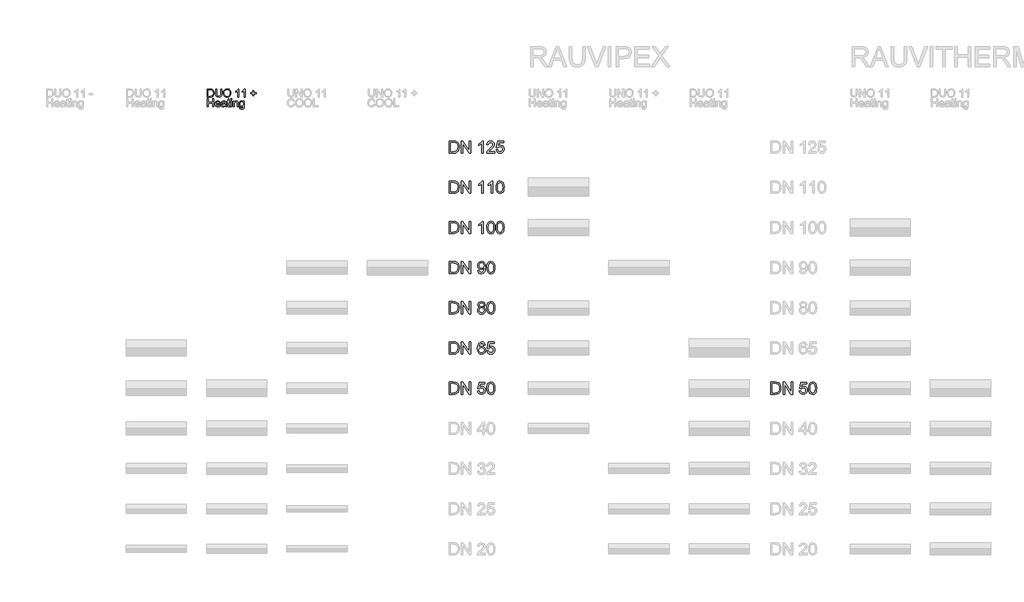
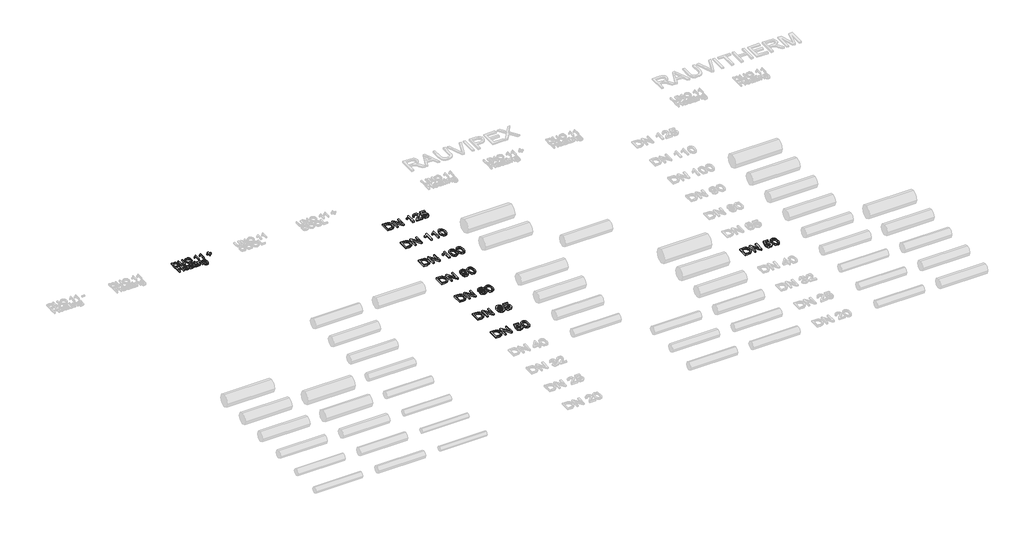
# One storey, part 36 of 44: 9 proxies.
"""IFC4 building model written with IfcOpenShell, lengths in millimetres."""

from ifc_helpers import new_model, si_unit, origin, origin_with_axes, place, context, project, spatial, polyline, outline, extrude, element, save

model = new_model("IFC4")

# Units and contexts
model_context = context("Model", 3, world=origin())
ifc_project = project(units=[si_unit("LENGTHUNIT", "METRE", prefix="MILLI")], contexts=[model_context])

# Site, building, storey
site = spatial("IfcSite", under=ifc_project)
building = spatial("IfcBuilding", under=site)
storey = spatial("IfcBuildingStorey", under=building, Name="REHAU Starting view", Elevation=0.0)

# Proxies
placement = place(None, origin())
element("IfcBuildingElementProxy", 1, Name="100", ObjectType="100", at=placement, inside=storey, context=model_context, shape_type="SweptSolid", body=[
    extrude(outline(polyline([(23010.9874089, 20121.9748178), (23010.9874089, 20222.431128), (23045.6418929, 20222.431128), (23063.5700088, 20220.9841255), (23078.3343395, 20213.7981638), (23090.2291907, 20196.6303374), (23094.1777908, 20172.7425332), (23091.5045149, 20152.4722352), (23084.6373844, 20137.8427946), (23075.4648599, 20128.7315838), (23063.4596442, 20123.6916005), (23047.3096246, 20121.9748178), (23010.9874089, 20121.9748178)]), holes=[polyline([(23023.5444477, 20134.5318566), (23045.7645202, 20134.5318566), (23061.9268025, 20136.3467411), (23071.2464797, 20141.4725636), (23078.8861625, 20153.9437632), (23081.620752, 20172.9387369), (23080.2810484, 20186.6239471), (23076.2619376, 20196.7284393), (23063.2266522, 20207.863001), (23045.4211637, 20209.8740892), (23023.5444477, 20209.8740892), (23023.5444477, 20134.5318566)])]), origin_with_axes(), (0.0, 0.0, 1.0), 20.0),
    extrude(outline(polyline([(23177.3681726, 20222.431128), (23189.9252114, 20222.431128), (23189.9252114, 20164.477451), (23186.5161716, 20140.4547567), (23174.2289129, 20125.9847316), (23163.9650053, 20121.8000739), (23150.9297199, 20120.405188), (23127.9861461, 20125.2612303), (23120.3464634, 20131.2055902), (23115.2574291, 20139.3265853), (23111.4437191, 20164.477451), (23111.4437191, 20222.431128), (23124.0007578, 20222.431128), (23124.0007578, 20164.9189094), (23126.4778299, 20145.7767829), (23134.9881668, 20136.2976902), (23149.7524975, 20132.9622268), (23162.5241341, 20134.6115644), (23171.0160768, 20139.5595772), (23175.7801487, 20149.1980855), (23177.3681726, 20164.9189094), (23177.3681726, 20222.431128)])), origin_with_axes(), (0.0, 0.0, 1.0), 20.0),
    extrude(outline(polyline([(23207.1911397, 20170.8785977), (23210.5388658, 20193.0925389), (23220.5820443, 20209.8986147), (23235.9165921, 20220.4752221), (23255.1384264, 20224.0007578), (23268.3147332, 20222.3452889), (23280.1298766, 20217.3788819), (23289.9400631, 20209.4510249), (23297.1014993, 20198.9112058), (23301.479295, 20186.2683279), (23302.9385603, 20172.0312947), (23301.402653, 20157.6041891), (23296.794931, 20144.7835015), (23289.369846, 20134.2252883), (23279.3818499, 20126.5856055), (23267.667874, 20121.9502924), (23255.06485, 20120.405188), (23241.6862081, 20122.1127736), (23229.8036197, 20127.2355304), (23220.0179586, 20135.3105402), (23212.9300988, 20145.8748848), (23207.1911397, 20170.8785977)]), holes=[polyline([(23219.7481785, 20170.7559704), (23222.2589731, 20155.0412778), (23229.7913569, 20143.0667189), (23241.1129253, 20135.4883498), (23254.9912736, 20132.9622268), (23269.071957, 20135.5128753), (23280.4119195, 20143.1648208), (23287.889121, 20155.5072617), (23290.3815215, 20172.1293965), (23286.1140904, 20192.8534156), (23273.6428907, 20206.575414), (23255.2120028, 20211.4437191), (23241.7046022, 20209.0984714), (23230.2205526, 20202.0627282), (23222.366272, 20189.5455433), (23219.7481785, 20170.7559704)])]), origin_with_axes(), (0.0, 0.0, 1.0), 20.0),
    extrude(outline(polyline([(23401.8252406, 20121.9748178), (23389.2682018, 20121.9748178), (23389.2682018, 20200.2601064), (23377.3733507, 20191.7865578), (23364.1541243, 20185.4467247), (23364.1541243, 20197.3170505), (23382.5604868, 20209.0647488), (23393.7318367, 20222.431128), (23401.8252406, 20222.431128), (23401.8252406, 20121.9748178)])), origin_with_axes(), (0.0, 0.0, 1.0), 20.0),
    extrude(outline(polyline([(23478.7371031, 20121.9748178), (23466.1800643, 20121.9748178), (23466.1800643, 20200.2601064), (23454.2852131, 20191.7865578), (23441.0659868, 20185.4467247), (23441.0659868, 20197.3170505), (23459.4723492, 20209.0647488), (23470.6436992, 20222.431128), (23478.7371031, 20222.431128), (23478.7371031, 20121.9748178)])), origin_with_axes(), (0.0, 0.0, 1.0), 20.0),
    extrude(outline(polyline([(23576.0541535, 20137.6711163), (23576.0541535, 20164.3548237), (23549.3704461, 20164.3548237), (23549.3704461, 20176.9118625), (23576.0541535, 20176.9118625), (23576.0541535, 20203.5955698), (23588.6111923, 20203.5955698), (23588.6111923, 20176.9118625), (23615.2948997, 20176.9118625), (23615.2948997, 20164.3548237), (23588.6111923, 20164.3548237), (23588.6111923, 20137.6711163), (23576.0541535, 20137.6711163)])), origin_with_axes(), (0.0, 0.0, 1.0), 20.0),
    extrude(outline(polyline([(23010.9874089, 20000.0), (23010.9874089, 20100.4563101), (23023.5444477, 20100.4563101), (23023.5444477, 20059.6459342), (23076.9118625, 20059.6459342), (23076.9118625, 20100.4563101), (23089.4689012, 20100.4563101), (23089.4689012, 20000.0), (23076.9118625, 20000.0), (23076.9118625, 20047.0888954), (23023.5444477, 20047.0888954), (23023.5444477, 20000.0), (23010.9874089, 20000.0)])), origin_with_axes(), (0.0, 0.0, 1.0), 20.0),
    extrude(outline(polyline([(23161.5247213, 20021.9748178), (23173.8365055, 20020.405188), (23169.4004617, 20011.1284304), (23162.321799, 20004.1938547), (23152.7599328, 19999.8712413), (23140.8742787, 19998.4303702), (23126.1406048, 20000.9166393), (23114.803708, 20008.3754468), (23107.5748268, 20020.3224146), (23105.1651997, 20036.2731647), (23107.5993522, 20052.7604095), (23114.9018098, 20065.0905877), (23126.0854225, 20072.7793214), (23140.1630402, 20075.3422326), (23153.8022651, 20072.7854527), (23164.7007692, 20065.1151131), (23171.846877, 20052.8094604), (23174.2289129, 20036.3467411), (23174.1553365, 20032.9622268), (23117.7222385, 20032.9622268), (23119.8958079, 20023.5628418), (23124.9449883, 20016.6527916), (23132.2321175, 20012.4037546), (23141.1195333, 20010.9874089), (23153.4313175, 20013.6116338), (23161.5247213, 20021.9748178)]), holes=[polyline([(23117.7222385, 20045.5192655), (23161.6718741, 20045.5192655), (23156.6441535, 20056.8990819), (23149.3233018, 20061.3136659), (23140.1139892, 20062.7851938), (23124.6506827, 20058.088567), (23119.7854433, 20052.5979283), (23117.7222385, 20045.5192655)])]), origin_with_axes(), (0.0, 0.0, 1.0), 20.0),
    extrude(outline(polyline([(23233.8748471, 20009.4177791), (23221.697953, 20000.9074423), (23208.2457347, 19998.4303702), (23197.7519008, 19999.9202922), (23190.0110505, 20004.3900585), (23185.2377816, 20011.1774813), (23183.646692, 20019.6203731), (23186.0501877, 20029.5531869), (23192.3654953, 20036.7636741), (23201.157875, 20040.8839524), (23212.0226566, 20042.7724133), (23233.8012707, 20047.0888954), (23233.8748471, 20049.8847985), (23230.4167563, 20059.1554248), (23216.5353424, 20062.7851938), (23203.8311508, 20060.3694354), (23197.7733606, 20051.7977849), (23185.2163218, 20053.3674148), (23190.6487126, 20065.6301479), (23201.5870706, 20072.8161096), (23218.1540231, 20075.3422326), (23233.372075, 20073.1104152), (23241.968251, 20067.5063461), (23245.8187492, 20058.9837466), (23246.4318858, 20047.9963376), (23246.4318858, 20032.3736156), (23247.069548, 20010.5582133), (23249.5711455, 20000.0), (23237.0141068, 20000.0), (23233.8748471, 20009.4177791)]), holes=[polyline([(23233.8748471, 20034.5318566), (23213.6168119, 20030.6813584), (23202.8133439, 20028.6457447), (23197.9205134, 20025.3348067), (23196.2037308, 20020.5032899), (23199.9438644, 20013.7097357), (23210.9190106, 20010.9874089), (23223.6232021, 20013.9917785), (23231.8147079, 20021.2635793), (23233.8012707, 20030.975664), (23233.8748471, 20034.5318566)])]), origin_with_axes(), (0.0, 0.0, 1.0), 20.0),
    extrude(outline(polyline([(23290.3815215, 20010.4723741), (23291.9511514, 19999.632118), (23282.5578978, 19998.4303702), (23272.0364727, 20000.5150348), (23266.7880229, 20005.9842138), (23265.267444, 20020.2335097), (23265.267444, 20061.215564), (23255.8496649, 20061.215564), (23255.8496649, 20073.7726028), (23265.267444, 20073.7726028), (23265.267444, 20091.7007187), (23277.8244828, 20099.082884), (23277.8244828, 20073.7726028), (23290.3815215, 20073.7726028), (23290.3815215, 20061.215564), (23277.8244828, 20061.215564), (23277.8244828, 20020.6013917), (23278.4866703, 20014.1266686), (23280.6326487, 20011.8335375), (23284.9123425, 20010.9874089), (23290.3815215, 20010.4723741)])), origin_with_axes(), (0.0, 0.0, 1.0), 20.0),
    extrude(outline(polyline([(23302.9385603, 20087.8992714), (23302.9385603, 20100.4563101), (23315.4955991, 20100.4563101), (23315.4955991, 20087.8992714), (23302.9385603, 20087.8992714)])), origin_with_axes(), (0.0, 0.0, 1.0), 20.0),
    extrude(outline(polyline([(23302.9385603, 20000.0), (23302.9385603, 20073.7726028), (23315.4955991, 20073.7726028), (23315.4955991, 20000.0), (23302.9385603, 20000.0)])), origin_with_axes(), (0.0, 0.0, 1.0), 20.0),
    extrude(outline(polyline([(23334.3311572, 20000.0), (23334.3311572, 20073.7726028), (23346.888196, 20073.7726028), (23346.888196, 20063.4719069), (23356.4899161, 20072.3746512), (23369.5987778, 20075.3422326), (23381.4568408, 20072.9509996), (23389.5502447, 20066.6724803), (23393.3149038, 20057.4386422), (23393.9770914, 20045.2985363), (23393.9770914, 20000.0), (23381.4200526, 20000.0), (23381.4200526, 20043.6062792), (23379.9730501, 20054.7163154), (23374.8594904, 20060.5901646), (23366.2387889, 20062.7851938), (23352.6148924, 20057.8555751), (23348.3198701, 20050.712533), (23346.888196, 20039.1426443), (23346.888196, 20000.0), (23334.3311572, 20000.0)])), origin_with_axes(), (0.0, 0.0, 1.0), 20.0),
    extrude(outline(polyline([(23408.10376, 19993.7214806), (23420.6607988, 19992.1518508), (23424.7320262, 19985.5299749), (23436.9211829, 19982.7340717), (23449.7725273, 19985.8978569), (23455.9038939, 19994.7760757), (23456.7622852, 20009.4177791), (23447.9208546, 20002.3544448), (23437.1419121, 20000.0), (23424.1955316, 20002.7407209), (23414.5416949, 20010.9628835), (23408.5360213, 20023.0171502), (23406.5341301, 20037.2541834), (23410.127111, 20056.7151409), (23420.5259087, 20070.4861903), (23436.5287755, 20075.3422326), (23447.7307822, 20072.5953804), (23456.7622852, 20064.3548237), (23456.7622852, 20073.7726028), (23469.319324, 20073.7726028), (23469.319324, 20010.0799667), (23465.8857587, 19985.6893904), (23455.0087144, 19974.3463622), (23436.6759283, 19970.1770329), (23424.9926092, 19971.6454952), (23415.7924937, 19976.0508821), (23409.8910533, 19983.4054563), (23408.10376, 19993.7214806)]), holes=[polyline([(23419.0911689, 20038.1125747), (23420.4308725, 20026.5948026), (23424.4499833, 20018.6761426), (23430.4924451, 20014.0868147), (23437.9022016, 20012.5570388), (23445.2567758, 20014.0776177), (23451.3298944, 20018.6393544), (23455.4041875, 20026.4568468), (23456.7622852, 20037.7446927), (23455.3643336, 20048.6309341), (23451.1704789, 20056.4698863), (23445.0084555, 20061.2063669), (23437.7059979, 20062.7851938), (23430.5353646, 20061.2308924), (23424.5235597, 20056.5679881), (23420.4492666, 20048.8455319), (23419.0911689, 20038.1125747)])]), origin_with_axes(), (0.0, 0.0, 1.0), 20.0),
])
element("IfcBuildingElementProxy", 2, Name="150", ObjectType="150", at=placement, inside=storey, context=model_context, shape_type="SweptSolid", body=[
    extrude(outline(polyline([(26016.4811134, 16425.0), (26016.4811134, 16575.6844652), (26068.4628393, 16575.6844652), (26095.3550131, 16573.5139615), (26117.5015093, 16562.735019), (26127.9217668, 16551.2571007), (26135.343786, 16536.9832793), (26139.7859611, 16520.1894663), (26141.2666861, 16501.151573), (26137.2567724, 16470.7461261), (26126.9560765, 16448.8019651), (26113.1972899, 16435.135149), (26095.1894663, 16427.575174), (26070.9644369, 16425.0), (26016.4811134, 16425.0)]), holes=[polyline([(26035.3166715, 16443.8355582), (26068.6467803, 16443.8355582), (26092.8902038, 16446.5578849), (26106.8697196, 16454.2466186), (26118.3292437, 16472.9534181), (26122.431128, 16501.4458786), (26120.4215726, 16521.9736939), (26114.3929064, 16537.1304321), (26105.4855636, 16547.5414926), (26094.8399784, 16553.8322747), (26068.1317455, 16556.8489071), (26035.3166715, 16556.8489071), (26035.3166715, 16443.8355582)])]), origin_with_axes(), (0.0, 0.0, 1.0), 20.0),
    extrude(outline(polyline([(26167.1655786, 16425.0), (26167.1655786, 16575.6844652), (26187.3255119, 16575.6844652), (26266.0522589, 16456.3067578), (26266.0522589, 16575.6844652), (26284.8878171, 16575.6844652), (26284.8878171, 16425.0), (26264.7278837, 16425.0), (26186.0011368, 16544.4144956), (26186.0011368, 16425.0), (26167.1655786, 16425.0)])), origin_with_axes(), (0.0, 0.0, 1.0), 20.0),
    extrude(outline(polyline([(26369.6478288, 16465.0255611), (26388.4833869, 16467.3800058), (26391.9414777, 16456.072233), (26397.9747424, 16447.9742306), (26406.5555899, 16443.1043927), (26417.6564291, 16441.4811134), (26431.1576983, 16443.7389891), (26441.2744532, 16450.5126164), (26447.5928265, 16461.0202459), (26449.6989509, 16474.4801284), (26447.7261837, 16487.1536631), (26441.8078821, 16496.8473537), (26431.8980609, 16503.00018), (26417.9507347, 16505.0511222), (26401.414439, 16501.7769724), (26390.8378317, 16493.2788983), (26372.0022735, 16495.6333431), (26388.4833869, 16573.3300205), (26461.4711747, 16573.3300205), (26461.4711747, 16554.4944623), (26403.7137015, 16554.4944623), (26395.6570858, 16512.9973732), (26409.1123698, 16521.1643535), (26423.2114473, 16523.8866803), (26440.8100022, 16520.511363), (26455.4195159, 16510.3854111), (26465.2557608, 16494.9527614), (26468.5345091, 16475.6573507), (26465.582256, 16456.8217926), (26456.725497, 16440.7085612), (26439.766137, 16427.1613067), (26417.5828527, 16422.6455552), (26399.0829869, 16425.5472245), (26384.3447145, 16434.2522322), (26374.2417552, 16447.7489029), (26369.6478288, 16465.0255611)])), origin_with_axes(), (0.0, 0.0, 1.0), 20.0),
    extrude(outline(polyline([(26485.0156224, 16499.128222), (26486.3997784, 16523.2474853), (26490.5522465, 16542.4831152), (26497.4316398, 16557.1294171), (26506.9965717, 16567.4806967), (26519.31602, 16573.6335231), (26534.4589626, 16575.6844652), (26556.4583059, 16570.8284229), (26571.6518323, 16556.830513), (26580.4810002, 16534.5368641), (26583.9023027, 16499.128222), (26582.5319423, 16475.1469145), (26578.420861, 16455.9572699), (26571.5828544, 16441.2971724), (26562.0317181, 16430.904506), (26549.6846787, 16424.7102929), (26534.4589626, 16422.6455552), (26514.8876404, 16426.2324047), (26500.0252078, 16436.992953), (26488.7680188, 16462.4779783), (26485.0156224, 16499.128222)]), holes=[polyline([(26503.8511806, 16499.1650102), (26506.0584726, 16469.536714), (26512.6803485, 16452.3888145), (26522.5395859, 16444.2080387), (26534.4589626, 16441.4811134), (26546.3783392, 16444.2172357), (26556.2375767, 16452.4256027), (26562.8594526, 16469.5826993), (26565.0667446, 16499.1650102), (26562.933029, 16528.1265203), (26556.5318823, 16545.407777), (26546.6910389, 16553.9886246), (26534.2382334, 16556.8489071), (26522.4476155, 16554.3289154), (26512.9746541, 16546.7689404), (26506.132049, 16528.4116288), (26503.8511806, 16499.1650102)])]), origin_with_axes(), (0.0, 0.0, 1.0), 20.0),
])
element("IfcBuildingElementProxy", 3, Name="150", ObjectType="150", at=placement, inside=storey, context=model_context, shape_type="SweptSolid", body=[
    extrude(outline(polyline([(26016.4811134, 16925.0), (26016.4811134, 17075.6844652), (26068.4628393, 17075.6844652), (26095.3550131, 17073.5139615), (26117.5015093, 17062.735019), (26127.9217668, 17051.2571007), (26135.343786, 17036.9832793), (26139.7859611, 17020.1894663), (26141.2666861, 17001.151573), (26137.2567724, 16970.7461261), (26126.9560765, 16948.8019651), (26113.1972899, 16935.135149), (26095.1894663, 16927.575174), (26070.9644369, 16925.0), (26016.4811134, 16925.0)]), holes=[polyline([(26035.3166715, 16943.8355582), (26068.6467803, 16943.8355582), (26092.8902038, 16946.5578849), (26106.8697196, 16954.2466186), (26118.3292437, 16972.9534181), (26122.431128, 17001.4458786), (26120.4215726, 17021.9736939), (26114.3929064, 17037.1304321), (26105.4855636, 17047.5414926), (26094.8399784, 17053.8322747), (26068.1317455, 17056.8489071), (26035.3166715, 17056.8489071), (26035.3166715, 16943.8355582)])]), origin_with_axes(), (0.0, 0.0, 1.0), 20.0),
    extrude(outline(polyline([(26167.1655786, 16925.0), (26167.1655786, 17075.6844652), (26187.3255119, 17075.6844652), (26266.0522589, 16956.3067578), (26266.0522589, 17075.6844652), (26284.8878171, 17075.6844652), (26284.8878171, 16925.0), (26264.7278837, 16925.0), (26186.0011368, 17044.4144956), (26186.0011368, 16925.0), (26167.1655786, 16925.0)])), origin_with_axes(), (0.0, 0.0, 1.0), 20.0),
    extrude(outline(polyline([(26466.1800643, 17035.6589041), (26447.3445061, 17033.3044594), (26440.2075954, 17049.0130206), (26431.6635361, 17054.8899354), (26421.3352491, 17056.8489071), (26404.3391009, 17052.2871703), (26391.4816252, 17035.1622635), (26387.5774775, 17021.1321639), (26386.1289421, 17001.5930314), (26402.7388142, 17016.6210109), (26423.3218118, 17021.5322355), (26440.7226302, 17018.1753123), (26455.3275454, 17008.1045427), (26465.2327682, 16992.7178783), (26468.5345091, 16973.4132706), (26466.9802076, 16959.9257969), (26462.3173033, 16947.4224076), (26454.9320723, 16936.8182091), (26445.2107906, 16929.0283078), (26433.5949166, 16924.2412434), (26420.5259087, 16922.6455552), (26399.1565633, 16926.8761982), (26382.1374225, 16939.568127), (26371.0043936, 16961.9721405), (26367.293384, 16995.3390375), (26371.4136623, 17032.8538039), (26383.7744974, 17058.504376), (26400.6510839, 17071.3894429), (26422.5124715, 17075.6844652), (26439.0395701, 17073.0265178), (26452.2741249, 17065.0526756), (26461.5447511, 17052.3883379), (26466.1800643, 17035.6589041)]), holes=[polyline([(26386.1289421, 16973.7075762), (26390.4883438, 16957.3920097), (26402.0766266, 16945.5462094), (26419.0543807, 16941.4811134), (26431.4841936, 16943.5872378), (26441.2560591, 16949.9056111), (26447.588228, 16959.8384249), (26449.6989509, 16972.7878712), (26447.6158191, 16985.2176841), (26441.3664237, 16994.695244), (26431.4290113, 17000.696319), (26418.2818285, 17002.6966774), (26405.8704097, 17000.696319), (26395.4915389, 16994.695244), (26388.4695913, 16985.4476103), (26386.1289421, 16973.7075762)])]), origin_with_axes(), (0.0, 0.0, 1.0), 20.0),
    extrude(outline(polyline([(26485.0156224, 16965.0255611), (26503.8511806, 16967.3800058), (26507.3092713, 16956.072233), (26513.3425361, 16947.9742306), (26521.9233836, 16943.1043927), (26533.0242228, 16941.4811134), (26546.525492, 16943.7389891), (26556.6422469, 16950.5126164), (26562.9606202, 16961.0202459), (26565.0667446, 16974.4801284), (26563.0939774, 16987.1536631), (26557.1756758, 16996.8473537), (26547.2658545, 17003.00018), (26533.3185284, 17005.0511222), (26516.7822327, 17001.7769724), (26506.2056254, 16993.2788983), (26487.3700672, 16995.6333431), (26503.8511806, 17073.3300205), (26576.8389684, 17073.3300205), (26576.8389684, 17054.4944623), (26519.0814952, 17054.4944623), (26511.0248795, 17012.9973732), (26524.4801635, 17021.1643535), (26538.5792409, 17023.8866803), (26556.1777959, 17020.511363), (26570.7873096, 17010.3854111), (26580.6235545, 16994.9527614), (26583.9023027, 16975.6573507), (26580.9500497, 16956.8217926), (26572.0932907, 16940.7085612), (26555.1339307, 16927.1613067), (26532.9506464, 16922.6455552), (26514.4507806, 16925.5472245), (26499.7125081, 16934.2522322), (26489.6095489, 16947.7489029), (26485.0156224, 16965.0255611)])), origin_with_axes(), (0.0, 0.0, 1.0), 20.0),
])
element("IfcBuildingElementProxy", 4, Name="150", ObjectType="150", at=placement, inside=storey, context=model_context, shape_type="SweptSolid", body=[
    extrude(outline(polyline([(26016.4811134, 17425.0), (26016.4811134, 17575.6844652), (26068.4628393, 17575.6844652), (26095.3550131, 17573.5139615), (26117.5015093, 17562.735019), (26127.9217668, 17551.2571007), (26135.343786, 17536.9832793), (26139.7859611, 17520.1894663), (26141.2666861, 17501.151573), (26137.2567724, 17470.7461261), (26126.9560765, 17448.8019651), (26113.1972899, 17435.135149), (26095.1894663, 17427.575174), (26070.9644369, 17425.0), (26016.4811134, 17425.0)]), holes=[polyline([(26035.3166715, 17443.8355582), (26068.6467803, 17443.8355582), (26092.8902038, 17446.5578849), (26106.8697196, 17454.2466186), (26118.3292437, 17472.9534181), (26122.431128, 17501.4458786), (26120.4215726, 17521.9736939), (26114.3929064, 17537.1304321), (26105.4855636, 17547.5414926), (26094.8399784, 17553.8322747), (26068.1317455, 17556.8489071), (26035.3166715, 17556.8489071), (26035.3166715, 17443.8355582)])]), origin_with_axes(), (0.0, 0.0, 1.0), 20.0),
    extrude(outline(polyline([(26167.1655786, 17425.0), (26167.1655786, 17575.6844652), (26187.3255119, 17575.6844652), (26266.0522589, 17456.3067578), (26266.0522589, 17575.6844652), (26284.8878171, 17575.6844652), (26284.8878171, 17425.0), (26264.7278837, 17425.0), (26186.0011368, 17544.4144956), (26186.0011368, 17425.0), (26167.1655786, 17425.0)])), origin_with_axes(), (0.0, 0.0, 1.0), 20.0),
    extrude(outline(polyline([(26397.0918256, 17507.9941781), (26379.9301305, 17519.6928256), (26374.3567183, 17537.9029843), (26377.3917448, 17552.6274612), (26386.4968241, 17564.7951582), (26400.6510839, 17572.9621385), (26418.8336515, 17575.6844652), (26437.1265837, 17572.8977591), (26451.4647845, 17564.5376408), (26460.7354108, 17552.1768057), (26463.8256195, 17537.3879495), (26458.3257837, 17519.6376433), (26441.6423352, 17507.9941781), (26453.2352166, 17502.0206942), (26461.6735098, 17493.223716), (26466.8192593, 17482.0263078), (26468.5345091, 17468.8515338), (26465.1316006, 17450.8437102), (26454.9228752, 17435.9628835), (26439.1591317, 17425.9748873), (26419.0911689, 17422.6455552), (26399.0232061, 17425.9886829), (26383.2594626, 17436.0180658), (26373.0507372, 17451.0414467), (26369.6478288, 17469.3665686), (26371.4320564, 17483.0517788), (26376.7847395, 17494.3089679), (26385.4299663, 17502.7518597), (26397.0918256, 17507.9941781)]), holes=[polyline([(26393.1922764, 17537.3511613), (26394.861541, 17529.1289987), (26399.8693347, 17522.5623051), (26408.0685046, 17518.2580858), (26419.3118981, 17516.823346), (26430.2931757, 17518.2488887), (26438.3681855, 17522.5255169), (26443.3345924, 17528.8714813), (26444.9900614, 17536.5050327), (26443.2794101, 17544.4282912), (26438.1474563, 17550.9811892), (26429.9620819, 17555.3819776), (26419.0911689, 17556.8489071), (26408.1512781, 17555.4141673), (26399.9796993, 17551.1099479), (26394.8891321, 17544.8007717), (26393.1922764, 17537.3511613)]), polyline([(26388.4833869, 17470.0287562), (26391.628778, 17455.8469053), (26402.7572083, 17445.2335097), (26419.2383217, 17441.4811134), (26432.0590092, 17443.4538806), (26441.6791234, 17449.3721822), (26447.693994, 17458.3347073), (26449.6989509, 17469.440145), (26447.6296147, 17480.7341223), (26441.421606, 17489.8943839), (26431.5807626, 17495.9644369), (26418.6129223, 17497.9877878), (26405.9715773, 17495.992028), (26396.4480321, 17490.0047485), (26390.4745482, 17481.0192308), (26388.4833869, 17470.0287562)])]), origin_with_axes(), (0.0, 0.0, 1.0), 20.0),
    extrude(outline(polyline([(26485.0156224, 17499.128222), (26486.3997784, 17523.2474853), (26490.5522465, 17542.4831152), (26497.4316398, 17557.1294171), (26506.9965717, 17567.4806967), (26519.31602, 17573.6335231), (26534.4589626, 17575.6844652), (26556.4583059, 17570.8284229), (26571.6518323, 17556.830513), (26580.4810002, 17534.5368641), (26583.9023027, 17499.128222), (26582.5319423, 17475.1469145), (26578.420861, 17455.9572699), (26571.5828544, 17441.2971724), (26562.0317181, 17430.904506), (26549.6846787, 17424.7102929), (26534.4589626, 17422.6455552), (26514.8876404, 17426.2324047), (26500.0252078, 17436.992953), (26488.7680188, 17462.4779783), (26485.0156224, 17499.128222)]), holes=[polyline([(26503.8511806, 17499.1650102), (26506.0584726, 17469.536714), (26512.6803485, 17452.3888145), (26522.5395859, 17444.2080387), (26534.4589626, 17441.4811134), (26546.3783392, 17444.2172357), (26556.2375767, 17452.4256027), (26562.8594526, 17469.5826993), (26565.0667446, 17499.1650102), (26562.933029, 17528.1265203), (26556.5318823, 17545.407777), (26546.6910389, 17553.9886246), (26534.2382334, 17556.8489071), (26522.4476155, 17554.3289154), (26512.9746541, 17546.7689404), (26506.132049, 17528.4116288), (26503.8511806, 17499.1650102)])]), origin_with_axes(), (0.0, 0.0, 1.0), 20.0),
])
element("IfcBuildingElementProxy", 5, Name="150", ObjectType="150", at=placement, inside=storey, context=model_context, shape_type="SweptSolid", body=[
    extrude(outline(polyline([(26016.4811134, 17925.0), (26016.4811134, 18075.6844652), (26068.4628393, 18075.6844652), (26095.3550131, 18073.5139615), (26117.5015093, 18062.735019), (26127.9217668, 18051.2571007), (26135.343786, 18036.9832793), (26139.7859611, 18020.1894663), (26141.2666861, 18001.151573), (26137.2567724, 17970.7461261), (26126.9560765, 17948.8019651), (26113.1972899, 17935.135149), (26095.1894663, 17927.575174), (26070.9644369, 17925.0), (26016.4811134, 17925.0)]), holes=[polyline([(26035.3166715, 17943.8355582), (26068.6467803, 17943.8355582), (26092.8902038, 17946.5578849), (26106.8697196, 17954.2466186), (26118.3292437, 17972.9534181), (26122.431128, 18001.4458786), (26120.4215726, 18021.9736939), (26114.3929064, 18037.1304321), (26105.4855636, 18047.5414926), (26094.8399784, 18053.8322747), (26068.1317455, 18056.8489071), (26035.3166715, 18056.8489071), (26035.3166715, 17943.8355582)])]), origin_with_axes(), (0.0, 0.0, 1.0), 20.0),
    extrude(outline(polyline([(26167.1655786, 17925.0), (26167.1655786, 18075.6844652), (26187.3255119, 18075.6844652), (26266.0522589, 17956.3067578), (26266.0522589, 18075.6844652), (26284.8878171, 18075.6844652), (26284.8878171, 17925.0), (26264.7278837, 17925.0), (26186.0011368, 18044.4144956), (26186.0011368, 17925.0), (26167.1655786, 17925.0)])), origin_with_axes(), (0.0, 0.0, 1.0), 20.0),
    extrude(outline(polyline([(26372.0022735, 17962.6711163), (26390.8378317, 17965.0255611), (26394.0567991, 17954.3339906), (26399.2991176, 17947.0545256), (26406.4360283, 17942.8744664), (26415.3387726, 17941.4811134), (26430.5874813, 17945.0679628), (26440.9249653, 17954.6512888), (26447.0869887, 17971.0220376), (26449.8093155, 17992.8742281), (26449.6989509, 17996.5530481), (26434.6341832, 17982.2792266), (26413.9776092, 17976.7977849), (26396.8021185, 17980.1455111), (26382.5053045, 17990.1886895), (26372.8621977, 18005.7041127), (26369.6478288, 18025.4685729), (26373.0185475, 18045.8860236), (26383.1307039, 18061.8888904), (26398.3196318, 18072.2355715), (26416.9206651, 18075.6844652), (26430.9691588, 18073.7162966), (26443.7576567, 18067.8117905), (26454.4538257, 18058.2652528), (26462.2253328, 18045.3709888), (26466.957215, 18027.5471062), (26468.5345091, 18003.2117122), (26466.9618135, 17977.4093887), (26462.2437269, 17957.4655861), (26454.421636, 17942.4789933), (26443.5369275, 17931.5482995), (26430.0586509, 17924.8712413), (26414.4558558, 17922.6455552), (26398.3518214, 17925.271313), (26385.5035427, 17933.1485862), (26376.518025, 17945.7807342), (26372.0022735, 17962.6711163)]), holes=[polyline([(26449.6989509, 18025.9100313), (26447.6664029, 18038.6755365), (26441.5687588, 18048.4979858), (26432.1049945, 18054.7611767), (26419.9740857, 18056.8489071), (26407.3925215, 18054.6002284), (26397.3125548, 18047.8541923), (26390.6906789, 18037.5305038), (26388.4833869, 18024.5488679), (26390.5711172, 18012.9100013), (26396.8343082, 18003.6715647), (26406.6659545, 17997.6428985), (26419.4590509, 17995.6333431), (26431.4933907, 17997.6428985), (26441.1824827, 18003.6715647), (26447.5698339, 18013.2502921), (26449.6989509, 18025.9100313)])]), origin_with_axes(), (0.0, 0.0, 1.0), 20.0),
    extrude(outline(polyline([(26485.0156224, 17999.128222), (26486.3997784, 18023.2474853), (26490.5522465, 18042.4831152), (26497.4316398, 18057.1294171), (26506.9965717, 18067.4806967), (26519.31602, 18073.6335231), (26534.4589626, 18075.6844652), (26556.4583059, 18070.8284229), (26571.6518323, 18056.830513), (26580.4810002, 18034.5368641), (26583.9023027, 17999.128222), (26582.5319423, 17975.1469145), (26578.420861, 17955.9572699), (26571.5828544, 17941.2971724), (26562.0317181, 17930.904506), (26549.6846787, 17924.7102929), (26534.4589626, 17922.6455552), (26514.8876404, 17926.2324047), (26500.0252078, 17936.992953), (26488.7680188, 17962.4779783), (26485.0156224, 17999.128222)]), holes=[polyline([(26503.8511806, 17999.1650102), (26506.0584726, 17969.536714), (26512.6803485, 17952.3888145), (26522.5395859, 17944.2080387), (26534.4589626, 17941.4811134), (26546.3783392, 17944.2172357), (26556.2375767, 17952.4256027), (26562.8594526, 17969.5826993), (26565.0667446, 17999.1650102), (26562.933029, 18028.1265203), (26556.5318823, 18045.407777), (26546.6910389, 18053.9886246), (26534.2382334, 18056.8489071), (26522.4476155, 18054.3289154), (26512.9746541, 18046.7689404), (26506.132049, 18028.4116288), (26503.8511806, 17999.1650102)])]), origin_with_axes(), (0.0, 0.0, 1.0), 20.0),
])
element("IfcBuildingElementProxy", 6, Name="150", ObjectType="150", at=placement, inside=storey, context=model_context, shape_type="SweptSolid", body=[
    extrude(outline(polyline([(26016.4811134, 18425.0), (26016.4811134, 18575.6844652), (26068.4628393, 18575.6844652), (26095.3550131, 18573.5139615), (26117.5015093, 18562.735019), (26127.9217668, 18551.2571007), (26135.343786, 18536.9832793), (26139.7859611, 18520.1894663), (26141.2666861, 18501.151573), (26137.2567724, 18470.7461261), (26126.9560765, 18448.8019651), (26113.1972899, 18435.135149), (26095.1894663, 18427.575174), (26070.9644369, 18425.0), (26016.4811134, 18425.0)]), holes=[polyline([(26035.3166715, 18443.8355582), (26068.6467803, 18443.8355582), (26092.8902038, 18446.5578849), (26106.8697196, 18454.2466186), (26118.3292437, 18472.9534181), (26122.431128, 18501.4458786), (26120.4215726, 18521.9736939), (26114.3929064, 18537.1304321), (26105.4855636, 18547.5414926), (26094.8399784, 18553.8322747), (26068.1317455, 18556.8489071), (26035.3166715, 18556.8489071), (26035.3166715, 18443.8355582)])]), origin_with_axes(), (0.0, 0.0, 1.0), 20.0),
    extrude(outline(polyline([(26167.1655786, 18425.0), (26167.1655786, 18575.6844652), (26187.3255119, 18575.6844652), (26266.0522589, 18456.3067578), (26266.0522589, 18575.6844652), (26284.8878171, 18575.6844652), (26284.8878171, 18425.0), (26264.7278837, 18425.0), (26186.0011368, 18544.4144956), (26186.0011368, 18425.0), (26167.1655786, 18425.0)])), origin_with_axes(), (0.0, 0.0, 1.0), 20.0),
    extrude(outline(polyline([(26440.2811718, 18425.0), (26421.4456137, 18425.0), (26421.4456137, 18542.4279329), (26403.6033369, 18529.7176099), (26383.7744974, 18520.2078604), (26383.7744974, 18538.0133489), (26411.3840411, 18555.6348965), (26428.141066, 18575.6844652), (26440.2811718, 18575.6844652), (26440.2811718, 18425.0)])), origin_with_axes(), (0.0, 0.0, 1.0), 20.0),
    extrude(outline(polyline([(26485.0156224, 18499.128222), (26486.3997784, 18523.2474853), (26490.5522465, 18542.4831152), (26497.4316398, 18557.1294171), (26506.9965717, 18567.4806967), (26519.31602, 18573.6335231), (26534.4589626, 18575.6844652), (26556.4583059, 18570.8284229), (26571.6518323, 18556.830513), (26580.4810002, 18534.5368641), (26583.9023027, 18499.128222), (26582.5319423, 18475.1469145), (26578.420861, 18455.9572699), (26571.5828544, 18441.2971724), (26562.0317181, 18430.904506), (26549.6846787, 18424.7102929), (26534.4589626, 18422.6455552), (26514.8876404, 18426.2324047), (26500.0252078, 18436.992953), (26488.7680188, 18462.4779783), (26485.0156224, 18499.128222)]), holes=[polyline([(26503.8511806, 18499.1650102), (26506.0584726, 18469.536714), (26512.6803485, 18452.3888145), (26522.5395859, 18444.2080387), (26534.4589626, 18441.4811134), (26546.3783392, 18444.2172357), (26556.2375767, 18452.4256027), (26562.8594526, 18469.5826993), (26565.0667446, 18499.1650102), (26562.933029, 18528.1265203), (26556.5318823, 18545.407777), (26546.6910389, 18553.9886246), (26534.2382334, 18556.8489071), (26522.4476155, 18554.3289154), (26512.9746541, 18546.7689404), (26506.132049, 18528.4116288), (26503.8511806, 18499.1650102)])]), origin_with_axes(), (0.0, 0.0, 1.0), 20.0),
    extrude(outline(polyline([(26600.3834161, 18499.128222), (26601.7675721, 18523.2474853), (26605.9200402, 18542.4831152), (26612.7994335, 18557.1294171), (26622.3643653, 18567.4806967), (26634.6838137, 18573.6335231), (26649.8267563, 18575.6844652), (26671.8260996, 18570.8284229), (26687.019626, 18556.830513), (26695.8487939, 18534.5368641), (26699.2700964, 18499.128222), (26697.899736, 18475.1469145), (26693.7886547, 18455.9572699), (26686.9506481, 18441.2971724), (26677.3995118, 18430.904506), (26665.0524724, 18424.7102929), (26649.8267563, 18422.6455552), (26630.2554341, 18426.2324047), (26615.3930015, 18436.992953), (26604.1358125, 18462.4779783), (26600.3834161, 18499.128222)]), holes=[polyline([(26619.2189743, 18499.1650102), (26621.4262663, 18469.536714), (26628.0481422, 18452.3888145), (26637.9073796, 18444.2080387), (26649.8267563, 18441.4811134), (26661.7461329, 18444.2172357), (26671.6053704, 18452.4256027), (26678.2272463, 18469.5826993), (26680.4345383, 18499.1650102), (26678.3008227, 18528.1265203), (26671.899676, 18545.407777), (26662.0588326, 18553.9886246), (26649.6060271, 18556.8489071), (26637.8154091, 18554.3289154), (26628.3424478, 18546.7689404), (26621.4998427, 18528.4116288), (26619.2189743, 18499.1650102)])]), origin_with_axes(), (0.0, 0.0, 1.0), 20.0),
])
element("IfcBuildingElementProxy", 7, Name="150", ObjectType="150", at=placement, inside=storey, context=model_context, shape_type="SweptSolid", body=[
    extrude(outline(polyline([(26016.4811134, 18925.0), (26016.4811134, 19075.6844652), (26068.4628393, 19075.6844652), (26095.3550131, 19073.5139615), (26117.5015093, 19062.735019), (26127.9217668, 19051.2571007), (26135.343786, 19036.9832793), (26139.7859611, 19020.1894663), (26141.2666861, 19001.151573), (26137.2567724, 18970.7461261), (26126.9560765, 18948.8019651), (26113.1972899, 18935.135149), (26095.1894663, 18927.575174), (26070.9644369, 18925.0), (26016.4811134, 18925.0)]), holes=[polyline([(26035.3166715, 18943.8355582), (26068.6467803, 18943.8355582), (26092.8902038, 18946.5578849), (26106.8697196, 18954.2466186), (26118.3292437, 18972.9534181), (26122.431128, 19001.4458786), (26120.4215726, 19021.9736939), (26114.3929064, 19037.1304321), (26105.4855636, 19047.5414926), (26094.8399784, 19053.8322747), (26068.1317455, 19056.8489071), (26035.3166715, 19056.8489071), (26035.3166715, 18943.8355582)])]), origin_with_axes(), (0.0, 0.0, 1.0), 20.0),
    extrude(outline(polyline([(26167.1655786, 18925.0), (26167.1655786, 19075.6844652), (26187.3255119, 19075.6844652), (26266.0522589, 18956.3067578), (26266.0522589, 19075.6844652), (26284.8878171, 19075.6844652), (26284.8878171, 18925.0), (26264.7278837, 18925.0), (26186.0011368, 19044.4144956), (26186.0011368, 18925.0), (26167.1655786, 18925.0)])), origin_with_axes(), (0.0, 0.0, 1.0), 20.0),
    extrude(outline(polyline([(26440.2811718, 18925.0), (26421.4456137, 18925.0), (26421.4456137, 19042.4279329), (26403.6033369, 19029.7176099), (26383.7744974, 19020.2078604), (26383.7744974, 19038.0133489), (26411.3840411, 19055.6348965), (26428.141066, 19075.6844652), (26440.2811718, 19075.6844652), (26440.2811718, 18925.0)])), origin_with_axes(), (0.0, 0.0, 1.0), 20.0),
    extrude(outline(polyline([(26555.6489655, 18925.0), (26536.8134074, 18925.0), (26536.8134074, 19042.4279329), (26518.9711306, 19029.7176099), (26499.1422911, 19020.2078604), (26499.1422911, 19038.0133489), (26526.7518348, 19055.6348965), (26543.5088597, 19075.6844652), (26555.6489655, 19075.6844652), (26555.6489655, 18925.0)])), origin_with_axes(), (0.0, 0.0, 1.0), 20.0),
    extrude(outline(polyline([(26600.3834161, 18999.128222), (26601.7675721, 19023.2474853), (26605.9200402, 19042.4831152), (26612.7994335, 19057.1294171), (26622.3643653, 19067.4806967), (26634.6838137, 19073.6335231), (26649.8267563, 19075.6844652), (26671.8260996, 19070.8284229), (26687.019626, 19056.830513), (26695.8487939, 19034.5368641), (26699.2700964, 18999.128222), (26697.899736, 18975.1469145), (26693.7886547, 18955.9572699), (26686.9506481, 18941.2971724), (26677.3995118, 18930.904506), (26665.0524724, 18924.7102929), (26649.8267563, 18922.6455552), (26630.2554341, 18926.2324047), (26615.3930015, 18936.992953), (26604.1358125, 18962.4779783), (26600.3834161, 18999.128222)]), holes=[polyline([(26619.2189743, 18999.1650102), (26621.4262663, 18969.536714), (26628.0481422, 18952.3888145), (26637.9073796, 18944.2080387), (26649.8267563, 18941.4811134), (26661.7461329, 18944.2172357), (26671.6053704, 18952.4256027), (26678.2272463, 18969.5826993), (26680.4345383, 18999.1650102), (26678.3008227, 19028.1265203), (26671.899676, 19045.407777), (26662.0588326, 19053.9886246), (26649.6060271, 19056.8489071), (26637.8154091, 19054.3289154), (26628.3424478, 19046.7689404), (26621.4998427, 19028.4116288), (26619.2189743, 18999.1650102)])]), origin_with_axes(), (0.0, 0.0, 1.0), 20.0),
])
element("IfcBuildingElementProxy", 8, Name="150", ObjectType="150", at=placement, inside=storey, context=model_context, shape_type="SweptSolid", body=[
    extrude(outline(polyline([(26016.4811134, 19425.0), (26016.4811134, 19575.6844652), (26068.4628393, 19575.6844652), (26095.3550131, 19573.5139615), (26117.5015093, 19562.735019), (26127.9217668, 19551.2571007), (26135.343786, 19536.9832793), (26139.7859611, 19520.1894663), (26141.2666861, 19501.151573), (26137.2567724, 19470.7461261), (26126.9560765, 19448.8019651), (26113.1972899, 19435.135149), (26095.1894663, 19427.575174), (26070.9644369, 19425.0), (26016.4811134, 19425.0)]), holes=[polyline([(26035.3166715, 19443.8355582), (26068.6467803, 19443.8355582), (26092.8902038, 19446.5578849), (26106.8697196, 19454.2466186), (26118.3292437, 19472.9534181), (26122.431128, 19501.4458786), (26120.4215726, 19521.9736939), (26114.3929064, 19537.1304321), (26105.4855636, 19547.5414926), (26094.8399784, 19553.8322747), (26068.1317455, 19556.8489071), (26035.3166715, 19556.8489071), (26035.3166715, 19443.8355582)])]), origin_with_axes(), (0.0, 0.0, 1.0), 20.0),
    extrude(outline(polyline([(26167.1655786, 19425.0), (26167.1655786, 19575.6844652), (26187.3255119, 19575.6844652), (26266.0522589, 19456.3067578), (26266.0522589, 19575.6844652), (26284.8878171, 19575.6844652), (26284.8878171, 19425.0), (26264.7278837, 19425.0), (26186.0011368, 19544.4144956), (26186.0011368, 19425.0), (26167.1655786, 19425.0)])), origin_with_axes(), (0.0, 0.0, 1.0), 20.0),
    extrude(outline(polyline([(26440.2811718, 19425.0), (26421.4456137, 19425.0), (26421.4456137, 19542.4279329), (26403.6033369, 19529.7176099), (26383.7744974, 19520.2078604), (26383.7744974, 19538.0133489), (26411.3840411, 19555.6348965), (26428.141066, 19575.6844652), (26440.2811718, 19575.6844652), (26440.2811718, 19425.0)])), origin_with_axes(), (0.0, 0.0, 1.0), 20.0),
    extrude(outline(polyline([(26581.547858, 19443.8355582), (26581.547858, 19425.0), (26482.6611777, 19425.0), (26484.6845286, 19437.9862344), (26496.1256587, 19457.9806209), (26519.7068946, 19479.8144173), (26552.227663, 19511.1947515), (26558.325307, 19522.0104821), (26560.3578551, 19532.5319072), (26558.4402702, 19541.9634818), (26552.6875155, 19549.8039669), (26543.844552, 19555.087672), (26532.6563408, 19556.8489071), (26520.9071096, 19555.1290587), (26511.7790376, 19549.9695138), (26505.8883271, 19541.7749423), (26503.8511806, 19530.9500146), (26485.0156224, 19533.3044594), (26489.5819577, 19551.5238152), (26499.4549908, 19564.8319464), (26514.1196868, 19572.9713355), (26533.061011, 19575.6844652), (26552.140291, 19572.6678329), (26566.7773959, 19563.6179358), (26576.0894089, 19550.0982725), (26579.1934132, 19533.6723414), (26575.8456871, 19515.8116705), (26564.7172567, 19497.3439944), (26537.7331123, 19471.5370724), (26516.0648628, 19453.4188841), (26507.5667887, 19443.8355582), (26581.547858, 19443.8355582)])), origin_with_axes(), (0.0, 0.0, 1.0), 20.0),
    extrude(outline(polyline([(26600.3834161, 19465.0255611), (26619.2189743, 19467.3800058), (26622.677065, 19456.072233), (26628.7103298, 19447.9742306), (26637.2911773, 19443.1043927), (26648.3920165, 19441.4811134), (26661.8932857, 19443.7389891), (26672.0100406, 19450.5126164), (26678.3284139, 19461.0202459), (26680.4345383, 19474.4801284), (26678.4617711, 19487.1536631), (26672.5434695, 19496.8473537), (26662.6336482, 19503.00018), (26648.6863221, 19505.0511222), (26632.1500264, 19501.7769724), (26621.5734191, 19493.2788983), (26602.7378609, 19495.6333431), (26619.2189743, 19573.3300205), (26692.2067621, 19573.3300205), (26692.2067621, 19554.4944623), (26634.4492889, 19554.4944623), (26626.3926732, 19512.9973732), (26639.8479572, 19521.1643535), (26653.9470346, 19523.8866803), (26671.5455896, 19520.511363), (26686.1551033, 19510.3854111), (26695.9913482, 19494.9527614), (26699.2700964, 19475.6573507), (26696.3178434, 19456.8217926), (26687.4610844, 19440.7085612), (26670.5017244, 19427.1613067), (26648.3184401, 19422.6455552), (26629.8185743, 19425.5472245), (26615.0803018, 19434.2522322), (26604.9773425, 19447.7489029), (26600.3834161, 19465.0255611)])), origin_with_axes(), (0.0, 0.0, 1.0), 20.0),
])
element("IfcBuildingElementProxy", 9, Name="150", ObjectType="150", at=placement, inside=storey, context=model_context, shape_type="SweptSolid", body=[
    extrude(outline(polyline([(30016.4811134, 16425.0), (30016.4811134, 16575.6844652), (30068.4628393, 16575.6844652), (30095.3550131, 16573.5139615), (30117.5015093, 16562.735019), (30127.9217668, 16551.2571007), (30135.343786, 16536.9832793), (30139.7859611, 16520.1894663), (30141.2666861, 16501.151573), (30137.2567724, 16470.7461261), (30126.9560765, 16448.8019651), (30113.1972899, 16435.135149), (30095.1894663, 16427.575174), (30070.9644369, 16425.0), (30016.4811134, 16425.0)]), holes=[polyline([(30035.3166715, 16443.8355582), (30068.6467803, 16443.8355582), (30092.8902038, 16446.5578849), (30106.8697196, 16454.2466186), (30118.3292437, 16472.9534181), (30122.431128, 16501.4458786), (30120.4215726, 16521.9736939), (30114.3929064, 16537.1304321), (30105.4855636, 16547.5414926), (30094.8399784, 16553.8322747), (30068.1317455, 16556.8489071), (30035.3166715, 16556.8489071), (30035.3166715, 16443.8355582)])]), origin_with_axes(), (0.0, 0.0, 1.0), 20.0),
    extrude(outline(polyline([(30167.1655786, 16425.0), (30167.1655786, 16575.6844652), (30187.3255119, 16575.6844652), (30266.0522589, 16456.3067578), (30266.0522589, 16575.6844652), (30284.8878171, 16575.6844652), (30284.8878171, 16425.0), (30264.7278837, 16425.0), (30186.0011368, 16544.4144956), (30186.0011368, 16425.0), (30167.1655786, 16425.0)])), origin_with_axes(), (0.0, 0.0, 1.0), 20.0),
    extrude(outline(polyline([(30369.6478288, 16465.0255611), (30388.4833869, 16467.3800058), (30391.9414777, 16456.072233), (30397.9747424, 16447.9742306), (30406.5555899, 16443.1043927), (30417.6564291, 16441.4811134), (30431.1576983, 16443.7389891), (30441.2744532, 16450.5126164), (30447.5928265, 16461.0202459), (30449.6989509, 16474.4801284), (30447.7261837, 16487.1536631), (30441.8078821, 16496.8473537), (30431.8980609, 16503.00018), (30417.9507347, 16505.0511222), (30401.414439, 16501.7769724), (30390.8378317, 16493.2788983), (30372.0022735, 16495.6333431), (30388.4833869, 16573.3300205), (30461.4711747, 16573.3300205), (30461.4711747, 16554.4944623), (30403.7137015, 16554.4944623), (30395.6570858, 16512.9973732), (30409.1123698, 16521.1643535), (30423.2114473, 16523.8866803), (30440.8100022, 16520.511363), (30455.4195159, 16510.3854111), (30465.2557608, 16494.9527614), (30468.5345091, 16475.6573507), (30465.582256, 16456.8217926), (30456.725497, 16440.7085612), (30439.766137, 16427.1613067), (30417.5828527, 16422.6455552), (30399.0829869, 16425.5472245), (30384.3447145, 16434.2522322), (30374.2417552, 16447.7489029), (30369.6478288, 16465.0255611)])), origin_with_axes(), (0.0, 0.0, 1.0), 20.0),
    extrude(outline(polyline([(30485.0156224, 16499.128222), (30486.3997784, 16523.2474853), (30490.5522465, 16542.4831152), (30497.4316398, 16557.1294171), (30506.9965717, 16567.4806967), (30519.31602, 16573.6335231), (30534.4589626, 16575.6844652), (30556.4583059, 16570.8284229), (30571.6518323, 16556.830513), (30580.4810002, 16534.5368641), (30583.9023027, 16499.128222), (30582.5319423, 16475.1469145), (30578.420861, 16455.9572699), (30571.5828544, 16441.2971724), (30562.0317181, 16430.904506), (30549.6846787, 16424.7102929), (30534.4589626, 16422.6455552), (30514.8876404, 16426.2324047), (30500.0252078, 16436.992953), (30488.7680188, 16462.4779783), (30485.0156224, 16499.128222)]), holes=[polyline([(30503.8511806, 16499.1650102), (30506.0584726, 16469.536714), (30512.6803485, 16452.3888145), (30522.5395859, 16444.2080387), (30534.4589626, 16441.4811134), (30546.3783392, 16444.2172357), (30556.2375767, 16452.4256027), (30562.8594526, 16469.5826993), (30565.0667446, 16499.1650102), (30562.933029, 16528.1265203), (30556.5318823, 16545.407777), (30546.6910389, 16553.9886246), (30534.2382334, 16556.8489071), (30522.4476155, 16554.3289154), (30512.9746541, 16546.7689404), (30506.132049, 16528.4116288), (30503.8511806, 16499.1650102)])]), origin_with_axes(), (0.0, 0.0, 1.0), 20.0),
])

save(model, "model.ifc")
